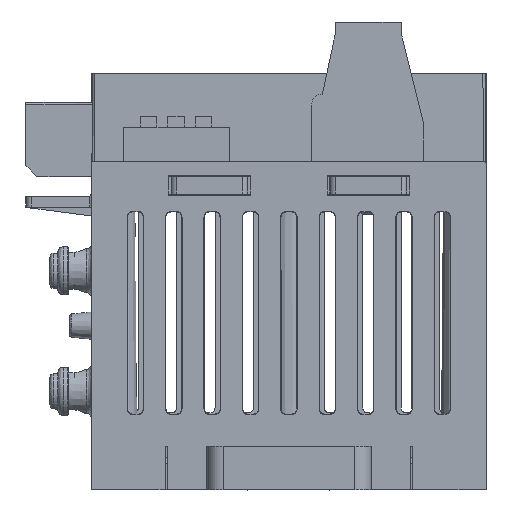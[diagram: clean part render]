
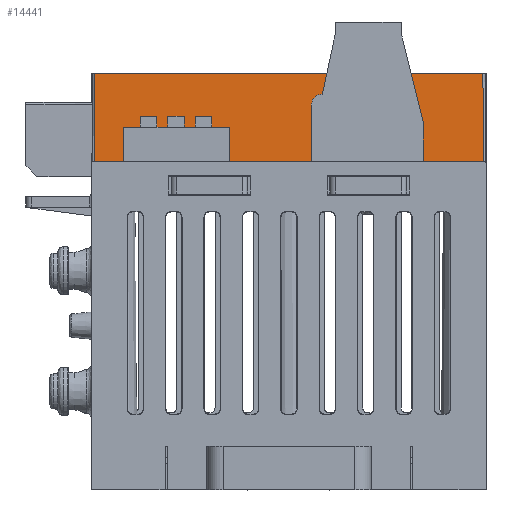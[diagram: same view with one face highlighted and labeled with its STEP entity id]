
A CAD part, front view. The second image highlights one B-rep face of the part: STEP entity #14441.
In plain terms, the highlighted planar face has unit normal (0, -1, 0.009).
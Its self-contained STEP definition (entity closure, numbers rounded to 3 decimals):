
#1673 = CARTESIAN_POINT ( 'NONE',  ( 17.75, 41.79, 0. ) ) ;
#2050 = LINE ( 'NONE', #19939, #32415 ) ;
#2294 = LINE ( 'NONE', #7869, #37361 ) ;
#2433 = DIRECTION ( 'NONE',  ( -1., 0., 0. ) ) ;
#3060 = EDGE_CURVE ( 'NONE', #16422, #33316, #11029, .T. ) ;
#4276 = CARTESIAN_POINT ( 'NONE',  ( 0., 41.79, 0. ) ) ;
#4436 = DIRECTION ( 'NONE',  ( 1., 0., 0. ) ) ;
#6244 = CARTESIAN_POINT ( 'NONE',  ( -17.782, 41.79, 0. ) ) ;
#6524 = EDGE_CURVE ( 'NONE', #36317, #31060, #2050, .T. ) ;
#7620 = VECTOR ( 'NONE', #13805, 1000. ) ;
#7869 = CARTESIAN_POINT ( 'NONE',  ( 17.782, 41.79, 0. ) ) ;
#7953 = CARTESIAN_POINT ( 'NONE',  ( 17.9, 41.872, 9.4 ) ) ;
#8355 = CARTESIAN_POINT ( 'NONE',  ( -17.75, 41.79, 0. ) ) ;
#10171 = ORIENTED_EDGE ( 'NONE', *, *, #3060, .T. ) ;
#11029 = LINE ( 'NONE', #35077, #15603 ) ;
#11809 = EDGE_CURVE ( 'NONE', #31060, #34287, #34525, .T. ) ;
#12359 = EDGE_LOOP ( 'NONE', ( #27588, #23514, #10171, #30635, #23320, #38911 ) ) ;
#13805 = DIRECTION ( 'NONE',  ( 1., 0., 0. ) ) ;
#14441 = ADVANCED_FACE ( 'NONE', ( #23254 ), #20660, .T. ) ;
#14715 = DIRECTION ( 'NONE',  ( 0., -0.009, -1. ) ) ;
#15164 = EDGE_CURVE ( 'NONE', #33316, #36317, #2294, .T. ) ;
#15603 = VECTOR ( 'NONE', #32067, 1000. ) ;
#16422 = VERTEX_POINT ( 'NONE', #1673 ) ;
#18525 = CARTESIAN_POINT ( 'NONE',  ( 17.782, 41.79, 0. ) ) ;
#19097 = CARTESIAN_POINT ( 'NONE',  ( -17.7, 41.872, 9.4 ) ) ;
#19899 = EDGE_CURVE ( 'NONE', #34287, #38566, #34840, .T. ) ;
#19939 = CARTESIAN_POINT ( 'NONE',  ( 17.9, 41.872, 9.4 ) ) ;
#19963 = LINE ( 'NONE', #4276, #7620 ) ;
#20660 = PLANE ( 'NONE',  #27778 ) ;
#20770 = VECTOR ( 'NONE', #38479, 1000. ) ;
#22523 = CARTESIAN_POINT ( 'NONE',  ( 17.9, 41.79, 0. ) ) ;
#23254 = FACE_OUTER_BOUND ( 'NONE', #12359, .T. ) ;
#23320 = ORIENTED_EDGE ( 'NONE', *, *, #6524, .T. ) ;
#23514 = ORIENTED_EDGE ( 'NONE', *, *, #25747, .T. ) ;
#23954 = CARTESIAN_POINT ( 'NONE',  ( -17.7, 41.872, 9.4 ) ) ;
#25747 = EDGE_CURVE ( 'NONE', #38566, #16422, #19963, .T. ) ;
#25947 = DIRECTION ( 'NONE',  ( -0.009, 0.009, 1. ) ) ;
#26424 = DIRECTION ( 'NONE',  ( 0., -1., 0.009 ) ) ;
#27588 = ORIENTED_EDGE ( 'NONE', *, *, #19899, .T. ) ;
#27778 = AXIS2_PLACEMENT_3D ( 'NONE', #7953, #26424, #14715 ) ;
#30635 = ORIENTED_EDGE ( 'NONE', *, *, #15164, .T. ) ;
#31060 = VERTEX_POINT ( 'NONE', #19097 ) ;
#32067 = DIRECTION ( 'NONE',  ( 1., 0., 0. ) ) ;
#32415 = VECTOR ( 'NONE', #2433, 1000. ) ;
#32957 = CARTESIAN_POINT ( 'NONE',  ( 17.7, 41.872, 9.4 ) ) ;
#33316 = VERTEX_POINT ( 'NONE', #18525 ) ;
#34287 = VERTEX_POINT ( 'NONE', #6244 ) ;
#34525 = LINE ( 'NONE', #23954, #20770 ) ;
#34840 = LINE ( 'NONE', #22523, #37542 ) ;
#35077 = CARTESIAN_POINT ( 'NONE',  ( 17.9, 41.79, 0. ) ) ;
#36317 = VERTEX_POINT ( 'NONE', #32957 ) ;
#37361 = VECTOR ( 'NONE', #25947, 1000. ) ;
#37542 = VECTOR ( 'NONE', #4436, 1000. ) ;
#38479 = DIRECTION ( 'NONE',  ( -0.009, -0.009, -1. ) ) ;
#38566 = VERTEX_POINT ( 'NONE', #8355 ) ;
#38911 = ORIENTED_EDGE ( 'NONE', *, *, #11809, .T. ) ;
